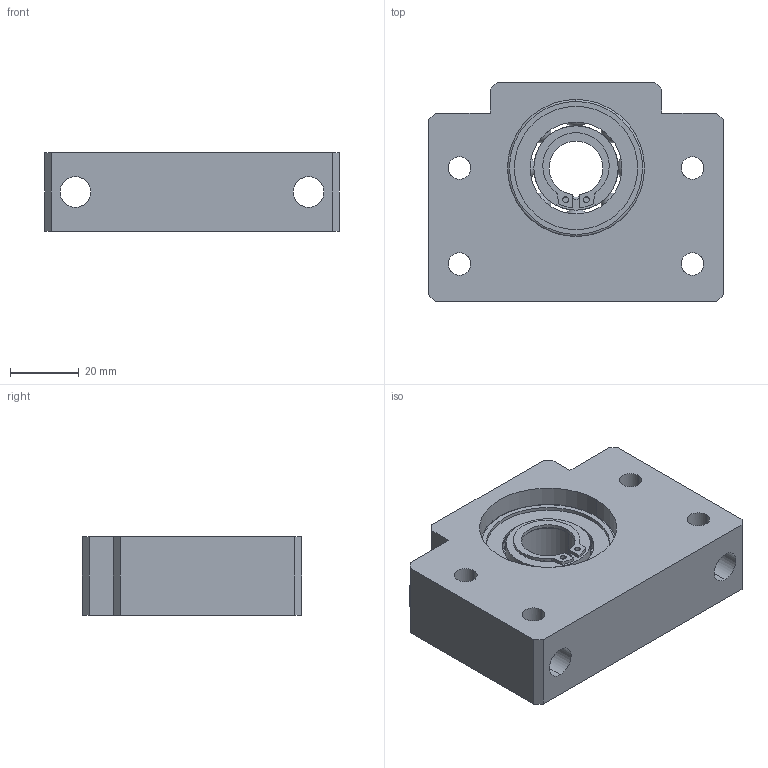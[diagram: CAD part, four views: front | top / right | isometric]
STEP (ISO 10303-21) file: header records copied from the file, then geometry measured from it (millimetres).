
FILE_DESCRIPTION (( 'STEP AP214' ), '1' );
FILE_NAME ('7.4038 BF17.STEP', '2026-03-18T09:09:13', ( '' ), ( '' ), 'SwSTEP 2.0', 'SolidWorks 2025', '' );
FILE_SCHEMA (( 'AUTOMOTIVE_DESIGN' ));
Length unit declared in the file: millimetre
Products named in the file (1): 7.4038 BF17
Bounding box: 86 x 64 x 23 mm (x, y, z)
Volume: 86928.8 mm3; surface area: 30135.2 mm2
Topology: 3 solids, 3 shells, 256 faces, 824 edges, 558 vertices
Faces by surface type: plane 77, cylinder 66, sphere 64, torus 32, bspline 17
Entity records: 14337 total; most frequent: CARTESIAN_POINT 6140, ORIENTED_EDGE 1596, DIRECTION 1246, EDGE_CURVE 798, VERTEX_POINT 550, AXIS2_PLACEMENT_3D 514, EDGE_LOOP 318, B_SPLINE_CURVE_WITH_KNOTS 306
